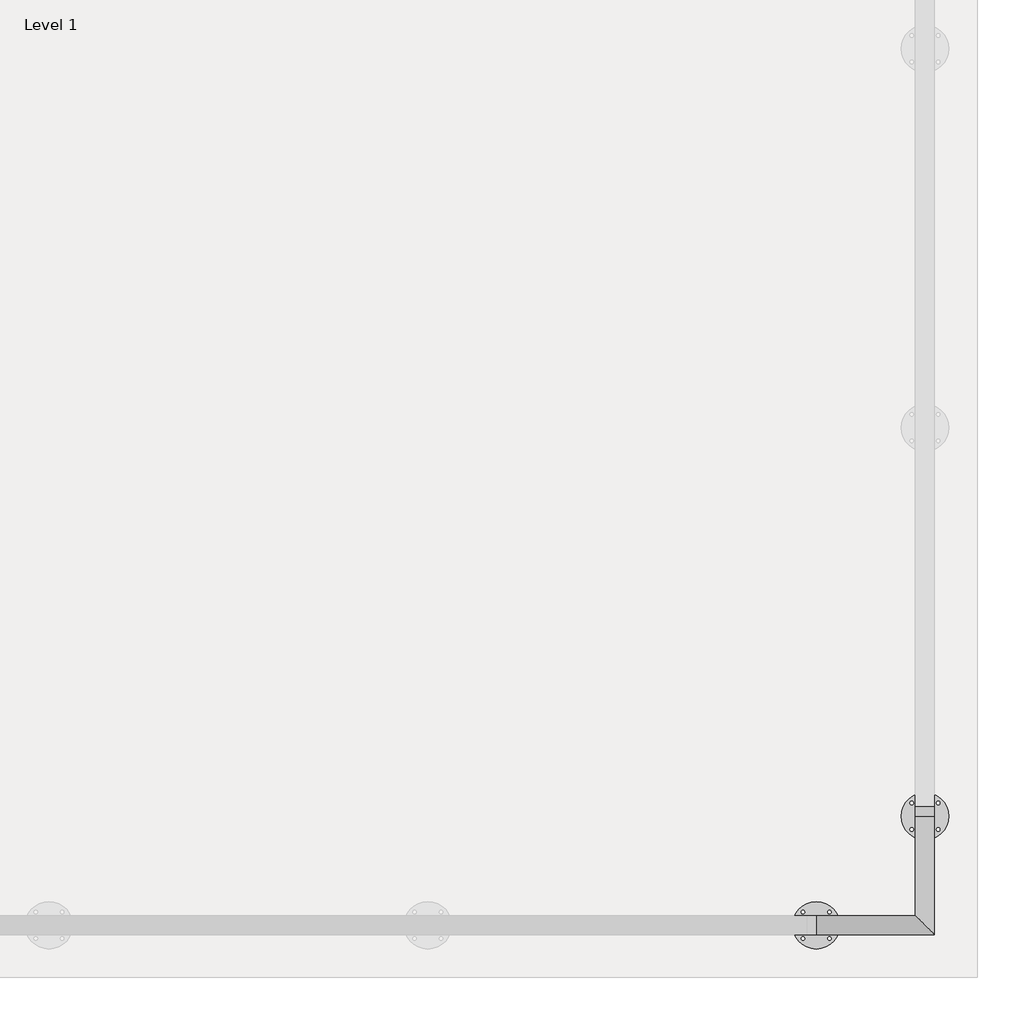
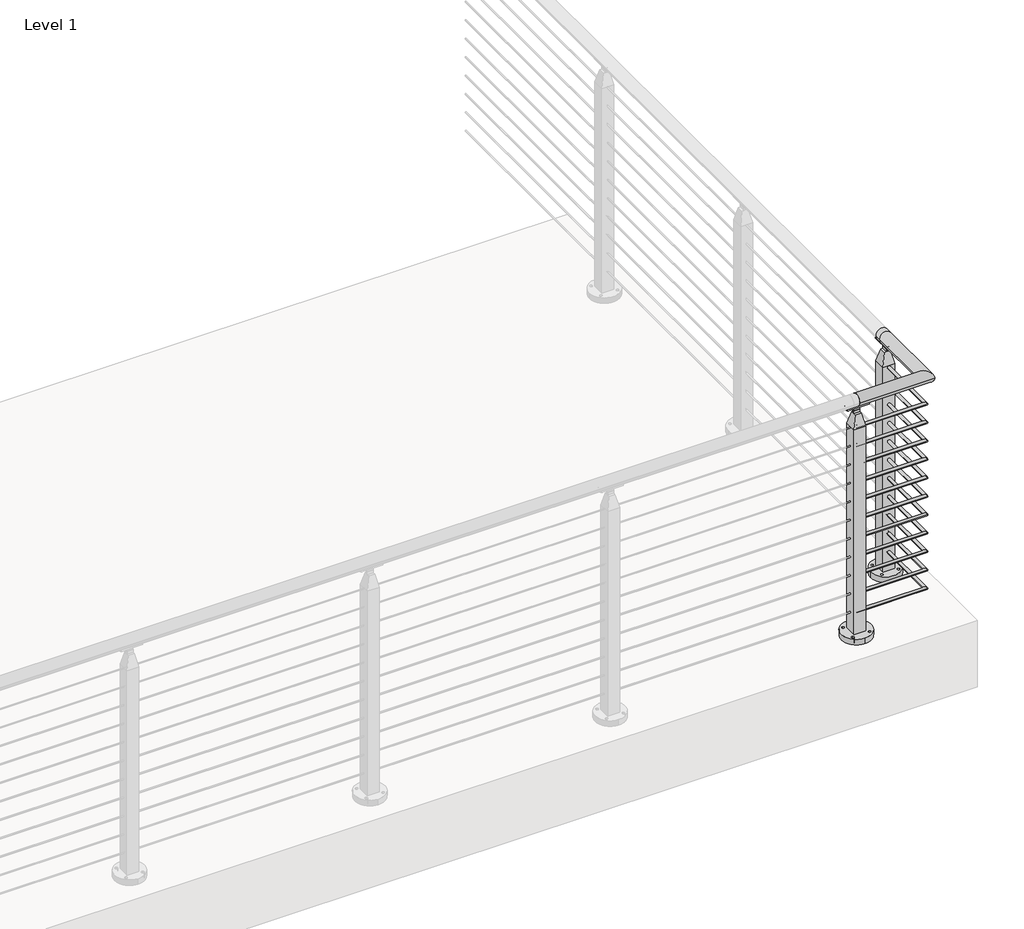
# One storey, part 14 of 26: 1 railing.
"""IFC4 building model written with IfcOpenShell, lengths in millimetres."""

from ifc_helpers import new_model, si_unit, point, frame, frame_2d, origin, origin_with_axes, place, context, project, spatial, polyline, circle_curve, ellipse_curve, trimmed, segment, composite_curve, outline, extrude, faceted_brep, element, save
from ifc_brep_helpers import plane_surface, cylinder_surface, advanced_brep

model = new_model("IFC4")

# Units and contexts
model_context = context("Model", 3, world=origin())
ifc_project = project(units=[si_unit("LENGTHUNIT", "METRE", prefix="MILLI")], contexts=[model_context])

# Site, building, storey
site = spatial("IfcSite", under=ifc_project)
building = spatial("IfcBuilding", under=site)
storey = spatial("IfcBuildingStorey", under=building, Name="Level 1", Elevation=0.0)

# Railing
placement = place(None, origin())
element("IfcRailing", 1, ObjectType="VIVA-CUBE-Cable-Core Mount-Corner", at=placement, inside=storey, context=model_context, shape_type="SolidModel", body=[
    advanced_brep(
    [(69591.9592968, -57070.1334719, 1054.1), (69591.9592968, -57019.3334719, 1054.1), (69909.4592968, -57070.1334719, 1054.1), (69858.6592968, -57019.3334719, 1054.1), (69909.4592968, -56726.8365969, 1054.1), (69858.6592968, -56726.8365969, 1054.1), (69858.6592968, -56752.6334719, 1054.1), (69909.4592968, -56752.6334719, 1054.1)],
    [
        (0, 1, circle_curve(frame((69591.9592968, -57044.7334719, 1054.1), z_axis=(-1.0, 0.0, 0.0), x_axis=(0.0, 1.0, 0.0)), 25.4)),
        (1, 0, circle_curve(frame((69591.9592968, -57044.7334719, 1054.1), z_axis=(-1.0, 0.0, 0.0), x_axis=(0.0, 1.0, 0.0)), 25.4)),
        (0, 2),
        (2, 3, ellipse_curve(frame((69884.0592968, -57044.7334719, 1054.1), z_axis=(-0.7071067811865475, -0.7071067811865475, 0.0), x_axis=(-0.7071067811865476, 0.7071067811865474, 0.0)), 35.9210245, 25.4)),
        (3, 1),
        (3, 2, ellipse_curve(frame((69884.0592968, -57044.7334719, 1054.1), z_axis=(-0.7071067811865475, -0.7071067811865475, 0.0), x_axis=(-0.7071067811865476, 0.7071067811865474, 0.0)), 35.9210245, 25.4)),
        (4, 5, circle_curve(frame((69884.0592968, -56726.8365969, 1054.1), z_axis=(0.0, 1.0, 0.0), x_axis=(-1.0, 0.0, 0.0)), 25.4)),
        (5, 4, circle_curve(frame((69884.0592968, -56726.8365969, 1054.1), z_axis=(0.0, 1.0, 0.0), x_axis=(-1.0, 0.0, 0.0)), 25.4)),
        (6, 7, circle_curve(frame((69884.0592968, -56752.6334719, 1054.1), z_axis=(0.0, 1.0, 0.0), x_axis=(-1.0, 0.0, 0.0)), 25.4)),
        (7, 4),
        (5, 6),
        (7, 6, circle_curve(frame((69884.0592968, -56752.6334719, 1054.1), z_axis=(0.0, 1.0, 0.0), x_axis=(-1.0, 0.0, 0.0)), 25.4)),
        (2, 7),
        (6, 3),
    ],
    [
        plane_surface(frame((69591.9592968, -57044.7334719, 1079.5), z_axis=(-1.0, 0.0, 0.0), x_axis=(0.0, 1.0, 0.0))),
        cylinder_surface(frame((69591.9592968, -57044.7334719, 1054.1), z_axis=(-1.0, 0.0, 0.0), x_axis=(0.0, 1.0, 0.0)), 25.4),
        plane_surface(frame((69884.0592968, -56726.8365969, 1079.5), z_axis=(0.0, 1.0, 0.0), x_axis=(0.0, 0.0, 1.0))),
        cylinder_surface(frame((69884.0592968, -56752.6334719, 1054.1), z_axis=(0.0, -1.0, 0.0), x_axis=(-1.0, 0.0, 0.0)), 25.4),
        cylinder_surface(frame((69884.0592968, -57044.7334719, 1054.1), z_axis=(0.0, -1.0, 0.0), x_axis=(-1.0, 0.0, 0.0)), 25.4),
    ],
    [
        (0, [[1, 2]]),
        (1, [[-1, 3, 4, 5]]),
        (1, [[-2, -5, 6, -3]]),
        (2, [[7, 8]]),
        (3, [[9, 10, -8, 11]]),
        (3, [[12, -11, -7, -10]]),
        (4, [[-4, 13, -9, 14]]),
        (4, [[-6, -14, -12, -13]]),
    ],
),
    advanced_brep(
    [(69591.9592968, -57038.3834719, 933.45), (69591.9592968, -57051.0834719, 933.45), (69877.7092968, -57038.3834719, 933.45), (69890.4092968, -57051.0834719, 933.45), (69877.7092968, -56752.6334719, 933.45), (69890.4092968, -56752.6334719, 933.45)],
    [
        (0, 1, circle_curve(frame((69591.9592968, -57044.7334719, 933.45), z_axis=(-1.0, 0.0, 0.0), x_axis=(0.0, -1.0, 0.0)), 6.35)),
        (1, 0, circle_curve(frame((69591.9592968, -57044.7334719, 933.45), z_axis=(-1.0, 0.0, 0.0), x_axis=(0.0, -1.0, 0.0)), 6.35)),
        (0, 2),
        (2, 3, ellipse_curve(frame((69884.0592968, -57044.7334719, 933.45), z_axis=(-0.7071067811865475, -0.7071067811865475, 0.0), x_axis=(-0.7071067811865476, 0.7071067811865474, 0.0)), 8.9802561, 6.35)),
        (3, 1),
        (3, 2, ellipse_curve(frame((69884.0592968, -57044.7334719, 933.45), z_axis=(-0.7071067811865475, -0.7071067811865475, 0.0), x_axis=(-0.7071067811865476, 0.7071067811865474, 0.0)), 8.9802561, 6.35)),
        (4, 5, circle_curve(frame((69884.0592968, -56752.6334719, 933.45), z_axis=(0.0, 1.0, 0.0), x_axis=(1.0, 0.0, 0.0)), 6.35)),
        (5, 4, circle_curve(frame((69884.0592968, -56752.6334719, 933.45), z_axis=(0.0, 1.0, 0.0), x_axis=(1.0, 0.0, 0.0)), 6.35)),
        (2, 4),
        (5, 3),
    ],
    [
        plane_surface(frame((69591.9592968, -57044.7334719, 939.8), z_axis=(-1.0, 0.0, 0.0), x_axis=(0.0, 1.0, 0.0))),
        cylinder_surface(frame((69591.9592968, -57044.7334719, 933.45), z_axis=(-1.0, 0.0, 0.0), x_axis=(0.0, -1.0, 0.0)), 6.35),
        plane_surface(frame((69884.0592968, -56752.6334719, 939.8), z_axis=(0.0, 1.0, 0.0), x_axis=(0.0, 0.0, 1.0))),
        cylinder_surface(frame((69884.0592968, -57044.7334719, 933.45), z_axis=(0.0, -1.0, 0.0), x_axis=(1.0, 0.0, 0.0)), 6.35),
    ],
    [
        (0, [[1, 2]]),
        (1, [[-1, 3, 4, 5]]),
        (1, [[-2, -5, 6, -3]]),
        (2, [[7, 8]]),
        (3, [[-4, 9, -8, 10]]),
        (3, [[-6, -10, -7, -9]]),
    ],
),
    advanced_brep(
    [(69591.9592968, -57038.3834719, 850.9), (69591.9592968, -57051.0834719, 850.9), (69877.7092968, -57038.3834719, 850.9), (69890.4092968, -57051.0834719, 850.9), (69877.7092968, -56752.6334719, 850.9), (69890.4092968, -56752.6334719, 850.9)],
    [
        (0, 1, circle_curve(frame((69591.9592968, -57044.7334719, 850.9), z_axis=(-1.0, 0.0, 0.0), x_axis=(0.0, -1.0, 0.0)), 6.35)),
        (1, 0, circle_curve(frame((69591.9592968, -57044.7334719, 850.9), z_axis=(-1.0, 0.0, 0.0), x_axis=(0.0, -1.0, 0.0)), 6.35)),
        (0, 2),
        (2, 3, ellipse_curve(frame((69884.0592968, -57044.7334719, 850.9), z_axis=(-0.7071067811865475, -0.7071067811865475, 0.0), x_axis=(-0.7071067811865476, 0.7071067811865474, 0.0)), 8.9802561, 6.35)),
        (3, 1),
        (3, 2, ellipse_curve(frame((69884.0592968, -57044.7334719, 850.9), z_axis=(-0.7071067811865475, -0.7071067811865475, 0.0), x_axis=(-0.7071067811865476, 0.7071067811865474, 0.0)), 8.9802561, 6.35)),
        (4, 5, circle_curve(frame((69884.0592968, -56752.6334719, 850.9), z_axis=(0.0, 1.0, 0.0), x_axis=(1.0, 0.0, 0.0)), 6.35)),
        (5, 4, circle_curve(frame((69884.0592968, -56752.6334719, 850.9), z_axis=(0.0, 1.0, 0.0), x_axis=(1.0, 0.0, 0.0)), 6.35)),
        (2, 4),
        (5, 3),
    ],
    [
        plane_surface(frame((69591.9592968, -57044.7334719, 857.25), z_axis=(-1.0, 0.0, 0.0), x_axis=(0.0, 1.0, 0.0))),
        cylinder_surface(frame((69591.9592968, -57044.7334719, 850.9), z_axis=(-1.0, 0.0, 0.0), x_axis=(0.0, -1.0, 0.0)), 6.35),
        plane_surface(frame((69884.0592968, -56752.6334719, 857.25), z_axis=(0.0, 1.0, 0.0), x_axis=(0.0, 0.0, 1.0))),
        cylinder_surface(frame((69884.0592968, -57044.7334719, 850.9), z_axis=(0.0, -1.0, 0.0), x_axis=(1.0, 0.0, 0.0)), 6.35),
    ],
    [
        (0, [[1, 2]]),
        (1, [[-1, 3, 4, 5]]),
        (1, [[-2, -5, 6, -3]]),
        (2, [[7, 8]]),
        (3, [[-4, 9, -8, 10]]),
        (3, [[-6, -10, -7, -9]]),
    ],
),
    advanced_brep(
    [(69591.9592968, -57038.3834719, 768.35), (69591.9592968, -57051.0834719, 768.35), (69877.7092968, -57038.3834719, 768.35), (69890.4092968, -57051.0834719, 768.35), (69877.7092968, -56752.6334719, 768.35), (69890.4092968, -56752.6334719, 768.35)],
    [
        (0, 1, circle_curve(frame((69591.9592968, -57044.7334719, 768.35), z_axis=(-1.0, 0.0, 0.0), x_axis=(0.0, -1.0, 0.0)), 6.35)),
        (1, 0, circle_curve(frame((69591.9592968, -57044.7334719, 768.35), z_axis=(-1.0, 0.0, 0.0), x_axis=(0.0, -1.0, 0.0)), 6.35)),
        (0, 2),
        (2, 3, ellipse_curve(frame((69884.0592968, -57044.7334719, 768.35), z_axis=(-0.7071067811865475, -0.7071067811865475, 0.0), x_axis=(-0.7071067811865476, 0.7071067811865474, 0.0)), 8.9802561, 6.35)),
        (3, 1),
        (3, 2, ellipse_curve(frame((69884.0592968, -57044.7334719, 768.35), z_axis=(-0.7071067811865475, -0.7071067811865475, 0.0), x_axis=(-0.7071067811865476, 0.7071067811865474, 0.0)), 8.9802561, 6.35)),
        (4, 5, circle_curve(frame((69884.0592968, -56752.6334719, 768.35), z_axis=(0.0, 1.0, 0.0), x_axis=(1.0, 0.0, 0.0)), 6.35)),
        (5, 4, circle_curve(frame((69884.0592968, -56752.6334719, 768.35), z_axis=(0.0, 1.0, 0.0), x_axis=(1.0, 0.0, 0.0)), 6.35)),
        (2, 4),
        (5, 3),
    ],
    [
        plane_surface(frame((69591.9592968, -57044.7334719, 774.7), z_axis=(-1.0, 0.0, 0.0), x_axis=(0.0, 1.0, 0.0))),
        cylinder_surface(frame((69591.9592968, -57044.7334719, 768.35), z_axis=(-1.0, 0.0, 0.0), x_axis=(0.0, -1.0, 0.0)), 6.35),
        plane_surface(frame((69884.0592968, -56752.6334719, 774.7), z_axis=(0.0, 1.0, 0.0), x_axis=(0.0, 0.0, 1.0))),
        cylinder_surface(frame((69884.0592968, -57044.7334719, 768.35), z_axis=(0.0, -1.0, 0.0), x_axis=(1.0, 0.0, 0.0)), 6.35),
    ],
    [
        (0, [[1, 2]]),
        (1, [[-1, 3, 4, 5]]),
        (1, [[-2, -5, 6, -3]]),
        (2, [[7, 8]]),
        (3, [[-4, 9, -8, 10]]),
        (3, [[-6, -10, -7, -9]]),
    ],
),
    advanced_brep(
    [(69591.9592968, -57038.3834719, 685.8), (69591.9592968, -57051.0834719, 685.8), (69877.7092968, -57038.3834719, 685.8), (69890.4092968, -57051.0834719, 685.8), (69877.7092968, -56752.6334719, 685.8), (69890.4092968, -56752.6334719, 685.8)],
    [
        (0, 1, circle_curve(frame((69591.9592968, -57044.7334719, 685.8), z_axis=(-1.0, 0.0, 0.0), x_axis=(0.0, -1.0, 0.0)), 6.35)),
        (1, 0, circle_curve(frame((69591.9592968, -57044.7334719, 685.8), z_axis=(-1.0, 0.0, 0.0), x_axis=(0.0, -1.0, 0.0)), 6.35)),
        (0, 2),
        (2, 3, ellipse_curve(frame((69884.0592968, -57044.7334719, 685.8), z_axis=(-0.7071067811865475, -0.7071067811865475, 0.0), x_axis=(-0.7071067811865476, 0.7071067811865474, 0.0)), 8.9802561, 6.35)),
        (3, 1),
        (3, 2, ellipse_curve(frame((69884.0592968, -57044.7334719, 685.8), z_axis=(-0.7071067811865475, -0.7071067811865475, 0.0), x_axis=(-0.7071067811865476, 0.7071067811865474, 0.0)), 8.9802561, 6.35)),
        (4, 5, circle_curve(frame((69884.0592968, -56752.6334719, 685.8), z_axis=(0.0, 1.0, 0.0), x_axis=(1.0, 0.0, 0.0)), 6.35)),
        (5, 4, circle_curve(frame((69884.0592968, -56752.6334719, 685.8), z_axis=(0.0, 1.0, 0.0), x_axis=(1.0, 0.0, 0.0)), 6.35)),
        (2, 4),
        (5, 3),
    ],
    [
        plane_surface(frame((69591.9592968, -57044.7334719, 692.15), z_axis=(-1.0, 0.0, 0.0), x_axis=(0.0, 1.0, 0.0))),
        cylinder_surface(frame((69591.9592968, -57044.7334719, 685.8), z_axis=(-1.0, 0.0, 0.0), x_axis=(0.0, -1.0, 0.0)), 6.35),
        plane_surface(frame((69884.0592968, -56752.6334719, 692.15), z_axis=(0.0, 1.0, 0.0), x_axis=(0.0, 0.0, 1.0))),
        cylinder_surface(frame((69884.0592968, -57044.7334719, 685.8), z_axis=(0.0, -1.0, 0.0), x_axis=(1.0, 0.0, 0.0)), 6.35),
    ],
    [
        (0, [[1, 2]]),
        (1, [[-1, 3, 4, 5]]),
        (1, [[-2, -5, 6, -3]]),
        (2, [[7, 8]]),
        (3, [[-4, 9, -8, 10]]),
        (3, [[-6, -10, -7, -9]]),
    ],
),
    advanced_brep(
    [(69591.9592968, -57038.3834719, 603.25), (69591.9592968, -57051.0834719, 603.25), (69877.7092968, -57038.3834719, 603.25), (69890.4092968, -57051.0834719, 603.25), (69877.7092968, -56752.6334719, 603.25), (69890.4092968, -56752.6334719, 603.25)],
    [
        (0, 1, circle_curve(frame((69591.9592968, -57044.7334719, 603.25), z_axis=(-1.0, 0.0, 0.0), x_axis=(0.0, -1.0, 0.0)), 6.35)),
        (1, 0, circle_curve(frame((69591.9592968, -57044.7334719, 603.25), z_axis=(-1.0, 0.0, 0.0), x_axis=(0.0, -1.0, 0.0)), 6.35)),
        (0, 2),
        (2, 3, ellipse_curve(frame((69884.0592968, -57044.7334719, 603.25), z_axis=(-0.7071067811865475, -0.7071067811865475, 0.0), x_axis=(-0.7071067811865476, 0.7071067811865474, 0.0)), 8.9802561, 6.35)),
        (3, 1),
        (3, 2, ellipse_curve(frame((69884.0592968, -57044.7334719, 603.25), z_axis=(-0.7071067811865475, -0.7071067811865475, 0.0), x_axis=(-0.7071067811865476, 0.7071067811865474, 0.0)), 8.9802561, 6.35)),
        (4, 5, circle_curve(frame((69884.0592968, -56752.6334719, 603.25), z_axis=(0.0, 1.0, 0.0), x_axis=(1.0, 0.0, 0.0)), 6.35)),
        (5, 4, circle_curve(frame((69884.0592968, -56752.6334719, 603.25), z_axis=(0.0, 1.0, 0.0), x_axis=(1.0, 0.0, 0.0)), 6.35)),
        (2, 4),
        (5, 3),
    ],
    [
        plane_surface(frame((69591.9592968, -57044.7334719, 609.6), z_axis=(-1.0, 0.0, 0.0), x_axis=(0.0, 1.0, 0.0))),
        cylinder_surface(frame((69591.9592968, -57044.7334719, 603.25), z_axis=(-1.0, 0.0, 0.0), x_axis=(0.0, -1.0, 0.0)), 6.35),
        plane_surface(frame((69884.0592968, -56752.6334719, 609.6), z_axis=(0.0, 1.0, 0.0), x_axis=(0.0, 0.0, 1.0))),
        cylinder_surface(frame((69884.0592968, -57044.7334719, 603.25), z_axis=(0.0, -1.0, 0.0), x_axis=(1.0, 0.0, 0.0)), 6.35),
    ],
    [
        (0, [[1, 2]]),
        (1, [[-1, 3, 4, 5]]),
        (1, [[-2, -5, 6, -3]]),
        (2, [[7, 8]]),
        (3, [[-4, 9, -8, 10]]),
        (3, [[-6, -10, -7, -9]]),
    ],
),
    advanced_brep(
    [(69591.9592968, -57038.3834719, 520.7), (69591.9592968, -57051.0834719, 520.7), (69877.7092968, -57038.3834719, 520.7), (69890.4092968, -57051.0834719, 520.7), (69877.7092968, -56752.6334719, 520.7), (69890.4092968, -56752.6334719, 520.7)],
    [
        (0, 1, circle_curve(frame((69591.9592968, -57044.7334719, 520.7), z_axis=(-1.0, 0.0, 0.0), x_axis=(0.0, -1.0, 0.0)), 6.35)),
        (1, 0, circle_curve(frame((69591.9592968, -57044.7334719, 520.7), z_axis=(-1.0, 0.0, 0.0), x_axis=(0.0, -1.0, 0.0)), 6.35)),
        (0, 2),
        (2, 3, ellipse_curve(frame((69884.0592968, -57044.7334719, 520.7), z_axis=(-0.7071067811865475, -0.7071067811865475, 0.0), x_axis=(-0.7071067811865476, 0.7071067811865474, 0.0)), 8.9802561, 6.35)),
        (3, 1),
        (3, 2, ellipse_curve(frame((69884.0592968, -57044.7334719, 520.7), z_axis=(-0.7071067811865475, -0.7071067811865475, 0.0), x_axis=(-0.7071067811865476, 0.7071067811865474, 0.0)), 8.9802561, 6.35)),
        (4, 5, circle_curve(frame((69884.0592968, -56752.6334719, 520.7), z_axis=(0.0, 1.0, 0.0), x_axis=(1.0, 0.0, 0.0)), 6.35)),
        (5, 4, circle_curve(frame((69884.0592968, -56752.6334719, 520.7), z_axis=(0.0, 1.0, 0.0), x_axis=(1.0, 0.0, 0.0)), 6.35)),
        (2, 4),
        (5, 3),
    ],
    [
        plane_surface(frame((69591.9592968, -57044.7334719, 527.05), z_axis=(-1.0, 0.0, 0.0), x_axis=(0.0, 1.0, 0.0))),
        cylinder_surface(frame((69591.9592968, -57044.7334719, 520.7), z_axis=(-1.0, 0.0, 0.0), x_axis=(0.0, -1.0, 0.0)), 6.35),
        plane_surface(frame((69884.0592968, -56752.6334719, 527.05), z_axis=(0.0, 1.0, 0.0), x_axis=(0.0, 0.0, 1.0))),
        cylinder_surface(frame((69884.0592968, -57044.7334719, 520.7), z_axis=(0.0, -1.0, 0.0), x_axis=(1.0, 0.0, 0.0)), 6.35),
    ],
    [
        (0, [[1, 2]]),
        (1, [[-1, 3, 4, 5]]),
        (1, [[-2, -5, 6, -3]]),
        (2, [[7, 8]]),
        (3, [[-4, 9, -8, 10]]),
        (3, [[-6, -10, -7, -9]]),
    ],
),
    advanced_brep(
    [(69591.9592968, -57038.3834719, 438.15), (69591.9592968, -57051.0834719, 438.15), (69877.7092968, -57038.3834719, 438.15), (69890.4092968, -57051.0834719, 438.15), (69877.7092968, -56752.6334719, 438.15), (69890.4092968, -56752.6334719, 438.15)],
    [
        (0, 1, circle_curve(frame((69591.9592968, -57044.7334719, 438.15), z_axis=(-1.0, 0.0, 0.0), x_axis=(0.0, -1.0, 0.0)), 6.35)),
        (1, 0, circle_curve(frame((69591.9592968, -57044.7334719, 438.15), z_axis=(-1.0, 0.0, 0.0), x_axis=(0.0, -1.0, 0.0)), 6.35)),
        (0, 2),
        (2, 3, ellipse_curve(frame((69884.0592968, -57044.7334719, 438.15), z_axis=(-0.7071067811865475, -0.7071067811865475, 0.0), x_axis=(-0.7071067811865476, 0.7071067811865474, 0.0)), 8.9802561, 6.35)),
        (3, 1),
        (3, 2, ellipse_curve(frame((69884.0592968, -57044.7334719, 438.15), z_axis=(-0.7071067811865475, -0.7071067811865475, 0.0), x_axis=(-0.7071067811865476, 0.7071067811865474, 0.0)), 8.9802561, 6.35)),
        (4, 5, circle_curve(frame((69884.0592968, -56752.6334719, 438.15), z_axis=(0.0, 1.0, 0.0), x_axis=(1.0, 0.0, 0.0)), 6.35)),
        (5, 4, circle_curve(frame((69884.0592968, -56752.6334719, 438.15), z_axis=(0.0, 1.0, 0.0), x_axis=(1.0, 0.0, 0.0)), 6.35)),
        (2, 4),
        (5, 3),
    ],
    [
        plane_surface(frame((69591.9592968, -57044.7334719, 444.5), z_axis=(-1.0, 0.0, 0.0), x_axis=(0.0, 1.0, 0.0))),
        cylinder_surface(frame((69591.9592968, -57044.7334719, 438.15), z_axis=(-1.0, 0.0, 0.0), x_axis=(0.0, -1.0, 0.0)), 6.35),
        plane_surface(frame((69884.0592968, -56752.6334719, 444.5), z_axis=(0.0, 1.0, 0.0), x_axis=(0.0, 0.0, 1.0))),
        cylinder_surface(frame((69884.0592968, -57044.7334719, 438.15), z_axis=(0.0, -1.0, 0.0), x_axis=(1.0, 0.0, 0.0)), 6.35),
    ],
    [
        (0, [[1, 2]]),
        (1, [[-1, 3, 4, 5]]),
        (1, [[-2, -5, 6, -3]]),
        (2, [[7, 8]]),
        (3, [[-4, 9, -8, 10]]),
        (3, [[-6, -10, -7, -9]]),
    ],
),
    advanced_brep(
    [(69591.9592968, -57038.3834719, 355.6), (69591.9592968, -57051.0834719, 355.6), (69877.7092968, -57038.3834719, 355.6), (69890.4092968, -57051.0834719, 355.6), (69877.7092968, -56752.6334719, 355.6), (69890.4092968, -56752.6334719, 355.6)],
    [
        (0, 1, circle_curve(frame((69591.9592968, -57044.7334719, 355.6), z_axis=(-1.0, 0.0, 0.0), x_axis=(0.0, -1.0, 0.0)), 6.35)),
        (1, 0, circle_curve(frame((69591.9592968, -57044.7334719, 355.6), z_axis=(-1.0, 0.0, 0.0), x_axis=(0.0, -1.0, 0.0)), 6.35)),
        (0, 2),
        (2, 3, ellipse_curve(frame((69884.0592968, -57044.7334719, 355.6), z_axis=(-0.7071067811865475, -0.7071067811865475, 0.0), x_axis=(-0.7071067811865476, 0.7071067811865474, 0.0)), 8.9802561, 6.35)),
        (3, 1),
        (3, 2, ellipse_curve(frame((69884.0592968, -57044.7334719, 355.6), z_axis=(-0.7071067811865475, -0.7071067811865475, 0.0), x_axis=(-0.7071067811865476, 0.7071067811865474, 0.0)), 8.9802561, 6.35)),
        (4, 5, circle_curve(frame((69884.0592968, -56752.6334719, 355.6), z_axis=(0.0, 1.0, 0.0), x_axis=(1.0, 0.0, 0.0)), 6.35)),
        (5, 4, circle_curve(frame((69884.0592968, -56752.6334719, 355.6), z_axis=(0.0, 1.0, 0.0), x_axis=(1.0, 0.0, 0.0)), 6.35)),
        (2, 4),
        (5, 3),
    ],
    [
        plane_surface(frame((69591.9592968, -57044.7334719, 361.95), z_axis=(-1.0, 0.0, 0.0), x_axis=(0.0, 1.0, 0.0))),
        cylinder_surface(frame((69591.9592968, -57044.7334719, 355.6), z_axis=(-1.0, 0.0, 0.0), x_axis=(0.0, -1.0, 0.0)), 6.35),
        plane_surface(frame((69884.0592968, -56752.6334719, 361.95), z_axis=(0.0, 1.0, 0.0), x_axis=(0.0, 0.0, 1.0))),
        cylinder_surface(frame((69884.0592968, -57044.7334719, 355.6), z_axis=(0.0, -1.0, 0.0), x_axis=(1.0, 0.0, 0.0)), 6.35),
    ],
    [
        (0, [[1, 2]]),
        (1, [[-1, 3, 4, 5]]),
        (1, [[-2, -5, 6, -3]]),
        (2, [[7, 8]]),
        (3, [[-4, 9, -8, 10]]),
        (3, [[-6, -10, -7, -9]]),
    ],
),
    advanced_brep(
    [(69591.9592968, -57038.3834719, 273.05), (69591.9592968, -57051.0834719, 273.05), (69877.7092968, -57038.3834719, 273.05), (69890.4092968, -57051.0834719, 273.05), (69877.7092968, -56752.6334719, 273.05), (69890.4092968, -56752.6334719, 273.05)],
    [
        (0, 1, circle_curve(frame((69591.9592968, -57044.7334719, 273.05), z_axis=(-1.0, 0.0, 0.0), x_axis=(0.0, -1.0, 0.0)), 6.35)),
        (1, 0, circle_curve(frame((69591.9592968, -57044.7334719, 273.05), z_axis=(-1.0, 0.0, 0.0), x_axis=(0.0, -1.0, 0.0)), 6.35)),
        (0, 2),
        (2, 3, ellipse_curve(frame((69884.0592968, -57044.7334719, 273.05), z_axis=(-0.7071067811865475, -0.7071067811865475, 0.0), x_axis=(-0.7071067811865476, 0.7071067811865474, 0.0)), 8.9802561, 6.35)),
        (3, 1),
        (3, 2, ellipse_curve(frame((69884.0592968, -57044.7334719, 273.05), z_axis=(-0.7071067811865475, -0.7071067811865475, 0.0), x_axis=(-0.7071067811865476, 0.7071067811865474, 0.0)), 8.9802561, 6.35)),
        (4, 5, circle_curve(frame((69884.0592968, -56752.6334719, 273.05), z_axis=(0.0, 1.0, 0.0), x_axis=(1.0, 0.0, 0.0)), 6.35)),
        (5, 4, circle_curve(frame((69884.0592968, -56752.6334719, 273.05), z_axis=(0.0, 1.0, 0.0), x_axis=(1.0, 0.0, 0.0)), 6.35)),
        (2, 4),
        (5, 3),
    ],
    [
        plane_surface(frame((69591.9592968, -57044.7334719, 279.4), z_axis=(-1.0, 0.0, 0.0), x_axis=(0.0, 1.0, 0.0))),
        cylinder_surface(frame((69591.9592968, -57044.7334719, 273.05), z_axis=(-1.0, 0.0, 0.0), x_axis=(0.0, -1.0, 0.0)), 6.35),
        plane_surface(frame((69884.0592968, -56752.6334719, 279.4), z_axis=(0.0, 1.0, 0.0), x_axis=(0.0, 0.0, 1.0))),
        cylinder_surface(frame((69884.0592968, -57044.7334719, 273.05), z_axis=(0.0, -1.0, 0.0), x_axis=(1.0, 0.0, 0.0)), 6.35),
    ],
    [
        (0, [[1, 2]]),
        (1, [[-1, 3, 4, 5]]),
        (1, [[-2, -5, 6, -3]]),
        (2, [[7, 8]]),
        (3, [[-4, 9, -8, 10]]),
        (3, [[-6, -10, -7, -9]]),
    ],
),
    advanced_brep(
    [(69591.9592968, -57038.3834719, 190.5), (69591.9592968, -57051.0834719, 190.5), (69877.7092968, -57038.3834719, 190.5), (69890.4092968, -57051.0834719, 190.5), (69877.7092968, -56752.6334719, 190.5), (69890.4092968, -56752.6334719, 190.5)],
    [
        (0, 1, circle_curve(frame((69591.9592968, -57044.7334719, 190.5), z_axis=(-1.0, 0.0, 0.0), x_axis=(0.0, -1.0, 0.0)), 6.35)),
        (1, 0, circle_curve(frame((69591.9592968, -57044.7334719, 190.5), z_axis=(-1.0, 0.0, 0.0), x_axis=(0.0, -1.0, 0.0)), 6.35)),
        (0, 2),
        (2, 3, ellipse_curve(frame((69884.0592968, -57044.7334719, 190.5), z_axis=(-0.7071067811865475, -0.7071067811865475, 0.0), x_axis=(-0.7071067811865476, 0.7071067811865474, 0.0)), 8.9802561, 6.35)),
        (3, 1),
        (3, 2, ellipse_curve(frame((69884.0592968, -57044.7334719, 190.5), z_axis=(-0.7071067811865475, -0.7071067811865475, 0.0), x_axis=(-0.7071067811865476, 0.7071067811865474, 0.0)), 8.9802561, 6.35)),
        (4, 5, circle_curve(frame((69884.0592968, -56752.6334719, 190.5), z_axis=(0.0, 1.0, 0.0), x_axis=(1.0, 0.0, 0.0)), 6.35)),
        (5, 4, circle_curve(frame((69884.0592968, -56752.6334719, 190.5), z_axis=(0.0, 1.0, 0.0), x_axis=(1.0, 0.0, 0.0)), 6.35)),
        (2, 4),
        (5, 3),
    ],
    [
        plane_surface(frame((69591.9592968, -57044.7334719, 196.85), z_axis=(-1.0, 0.0, 0.0), x_axis=(0.0, 1.0, 0.0))),
        cylinder_surface(frame((69591.9592968, -57044.7334719, 190.5), z_axis=(-1.0, 0.0, 0.0), x_axis=(0.0, -1.0, 0.0)), 6.35),
        plane_surface(frame((69884.0592968, -56752.6334719, 196.85), z_axis=(0.0, 1.0, 0.0), x_axis=(0.0, 0.0, 1.0))),
        cylinder_surface(frame((69884.0592968, -57044.7334719, 190.5), z_axis=(0.0, -1.0, 0.0), x_axis=(1.0, 0.0, 0.0)), 6.35),
    ],
    [
        (0, [[1, 2]]),
        (1, [[-1, 3, 4, 5]]),
        (1, [[-2, -5, 6, -3]]),
        (2, [[7, 8]]),
        (3, [[-4, 9, -8, 10]]),
        (3, [[-6, -10, -7, -9]]),
    ],
),
    advanced_brep(
    [(69591.9592968, -57038.3834719, 107.95), (69591.9592968, -57051.0834719, 107.95), (69877.7092968, -57038.3834719, 107.95), (69890.4092968, -57051.0834719, 107.95), (69877.7092968, -56752.6334719, 107.95), (69890.4092968, -56752.6334719, 107.95)],
    [
        (0, 1, circle_curve(frame((69591.9592968, -57044.7334719, 107.95), z_axis=(-1.0, 0.0, 0.0), x_axis=(0.0, -1.0, 0.0)), 6.35)),
        (1, 0, circle_curve(frame((69591.9592968, -57044.7334719, 107.95), z_axis=(-1.0, 0.0, 0.0), x_axis=(0.0, -1.0, 0.0)), 6.35)),
        (0, 2),
        (2, 3, ellipse_curve(frame((69884.0592968, -57044.7334719, 107.95), z_axis=(-0.7071067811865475, -0.7071067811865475, 0.0), x_axis=(-0.7071067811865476, 0.7071067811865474, 0.0)), 8.9802561, 6.35)),
        (3, 1),
        (3, 2, ellipse_curve(frame((69884.0592968, -57044.7334719, 107.95), z_axis=(-0.7071067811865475, -0.7071067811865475, 0.0), x_axis=(-0.7071067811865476, 0.7071067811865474, 0.0)), 8.9802561, 6.35)),
        (4, 5, circle_curve(frame((69884.0592968, -56752.6334719, 107.95), z_axis=(0.0, 1.0, 0.0), x_axis=(1.0, 0.0, 0.0)), 6.35)),
        (5, 4, circle_curve(frame((69884.0592968, -56752.6334719, 107.95), z_axis=(0.0, 1.0, 0.0), x_axis=(1.0, 0.0, 0.0)), 6.35)),
        (2, 4),
        (5, 3),
    ],
    [
        plane_surface(frame((69591.9592968, -57044.7334719, 114.3), z_axis=(-1.0, 0.0, 0.0), x_axis=(0.0, 1.0, 0.0))),
        cylinder_surface(frame((69591.9592968, -57044.7334719, 107.95), z_axis=(-1.0, 0.0, 0.0), x_axis=(0.0, -1.0, 0.0)), 6.35),
        plane_surface(frame((69884.0592968, -56752.6334719, 114.3), z_axis=(0.0, 1.0, 0.0), x_axis=(0.0, 0.0, 1.0))),
        cylinder_surface(frame((69884.0592968, -57044.7334719, 107.95), z_axis=(0.0, -1.0, 0.0), x_axis=(1.0, 0.0, 0.0)), 6.35),
    ],
    [
        (0, [[1, 2]]),
        (1, [[-1, 3, 4, 5]]),
        (1, [[-2, -5, 6, -3]]),
        (2, [[7, 8]]),
        (3, [[-4, 9, -8, 10]]),
        (3, [[-6, -10, -7, -9]]),
    ],
),
    extrude(outline(composite_curve([segment(trimmed(circle_curve(frame_2d((69884.0592968, -56752.2365969)), 63.5), [point((69947.5592968, -56752.2365969))], [point((69820.5592968, -56752.2365969))], False, "CARTESIAN"), True, "CONTINUOUS"), segment(trimmed(circle_curve(frame_2d((69884.0592968, -56752.2365969)), 63.5), [point((69820.5592968, -56752.2365969))], [point((69947.5592968, -56752.2365969))], False, "CARTESIAN"), True, "CONTINUOUS")], self_intersect=False), holes=[composite_curve([segment(trimmed(circle_curve(frame_2d((69919.5290406, -56787.7063407)), 4.7625), [point((69924.2915406, -56787.7063407))], [point((69914.7665406, -56787.7063407))], True, "CARTESIAN"), True, "CONTINUOUS"), segment(trimmed(circle_curve(frame_2d((69919.5290406, -56787.7063407)), 4.7625), [point((69914.7665406, -56787.7063407))], [point((69924.2915406, -56787.7063407))], True, "CARTESIAN"), True, "CONTINUOUS")], self_intersect=False), composite_curve([segment(trimmed(circle_curve(frame_2d((69848.5895529, -56787.7063407)), 4.7625), [point((69853.3520529, -56787.7063407))], [point((69843.8270529, -56787.7063407))], True, "CARTESIAN"), True, "CONTINUOUS"), segment(trimmed(circle_curve(frame_2d((69848.5895529, -56787.7063407)), 4.7625), [point((69843.8270529, -56787.7063407))], [point((69853.3520529, -56787.7063407))], True, "CARTESIAN"), True, "CONTINUOUS")], self_intersect=False), composite_curve([segment(trimmed(circle_curve(frame_2d((69919.5290406, -56716.766853)), 4.7625), [point((69924.2915406, -56716.766853))], [point((69914.7665406, -56716.766853))], True, "CARTESIAN"), True, "CONTINUOUS"), segment(trimmed(circle_curve(frame_2d((69919.5290406, -56716.766853)), 4.7625), [point((69914.7665406, -56716.766853))], [point((69924.2915406, -56716.766853))], True, "CARTESIAN"), True, "CONTINUOUS")], self_intersect=False), composite_curve([segment(trimmed(circle_curve(frame_2d((69848.5895529, -56716.766853)), 4.7625), [point((69853.3520529, -56716.766853))], [point((69843.8270529, -56716.766853))], True, "CARTESIAN"), True, "CONTINUOUS"), segment(trimmed(circle_curve(frame_2d((69848.5895529, -56716.766853)), 4.7625), [point((69843.8270529, -56716.766853))], [point((69853.3520529, -56716.766853))], True, "CARTESIAN"), True, "CONTINUOUS")], self_intersect=False)]), origin_with_axes(), (0.0, 0.0, 1.0), 25.4),
    faceted_brep([(69871.3592968, -56739.5365969, 997.2902749), (69871.3592968, -56764.9365969, 997.2902749), (69880.0905468, -56764.9365969, 997.2902749), (69880.0905468, -56739.5365969, 997.2902749), (69896.7592968, -56764.9365969, 997.2902749), (69896.7592968, -56739.5365969, 997.2902749), (69888.0280468, -56739.5365969, 997.2902749), (69888.0280468, -56764.9365969, 997.2902749), (69858.6592968, -56726.8365969, 941.1347854), (69909.4592968, -56726.8365969, 941.1347854), (69858.6592968, -56777.6365969, 941.1347854), (69909.4592968, -56777.6365969, 941.1347854), (69858.6592968, -56726.8365969, -88.9), (69909.4592968, -56726.8365969, -88.9), (69909.4592968, -56777.6365969, -88.9), (69858.6592968, -56777.6365969, -88.9), (69888.0280468, -56764.9365969, 1009.3306013), (69888.0280468, -56739.5365969, 1009.3306013), (69880.0905468, -56739.5365969, 1009.3306013), (69880.0905468, -56764.9365969, 1009.3306013)], [[[0, 1, 2, 3]], [[4, 5, 6, 7]], [[8, 0, 3, 6, 5, 9]], [[1, 0, 8, 10]], [[1, 10, 11, 4, 7, 2]], [[5, 4, 11, 9]], [[12, 13, 14, 15]], [[12, 15, 10, 8]], [[15, 14, 11, 10]], [[14, 13, 9, 11]], [[13, 12, 8, 9]], [[16, 17, 18, 19]], [[17, 16, 7, 6]], [[18, 17, 6, 3]], [[19, 18, 3, 2]], [[16, 19, 2, 7]]]),
    extrude(outline(composite_curve([segment(trimmed(circle_curve(frame_2d((1054.1433184, 69883.9625684)), 25.4345159), [point((1032.0284941, 69896.5263713))], [point((1031.9335733, 69871.5673346))], True, "CARTESIAN"), True, "CONTINUOUS"), segment(trimmed(circle_curve(frame_2d((1029.4310885, 69870.3226815)), 2.7949225), [point((1031.9335733, 69871.5673346))], [point((1027.0585031, 69868.8453764))], False, "CARTESIAN"), True, "CONTINUOUS"), segment(trimmed(circle_curve(frame_2d((1054.905945, 69884.0960315)), 31.75), [point((1027.0585031, 69868.8453764))], [point((1027.6392616, 69900.3622687))], False, "CARTESIAN"), True, "CONTINUOUS"), segment(trimmed(circle_curve(frame_2d((1029.5101807, 69898.073929)), 2.9558141), [point((1027.6392616, 69900.3622687))], [point((1032.0284941, 69896.5263713))], False, "CARTESIAN"), True, "CONTINUOUS")], self_intersect=False)), frame((0.0, -56797.4739969, 0.0), z_axis=(0.0, 1.0, 0.0), x_axis=(0.0, 0.0, 1.0)), (0.0, 0.0, 1.0), 90.4748),
    extrude(outline(composite_curve([segment(trimmed(circle_curve(frame_2d((-56725.168682, 1009.0006022)), 14.3679149), [point((-56725.168682, 1023.3685171))], [point((-56739.5365969, 1009.0006022))], True, "CARTESIAN"), True, "CONTINUOUS"), segment(trimmed(circle_curve(frame_2d((-56752.2365969, 1009.0006022)), 12.7), [point((-56739.5365969, 1009.0006022))], [point((-56764.9365969, 1009.0006022))], False, "CARTESIAN"), True, "CONTINUOUS"), segment(trimmed(circle_curve(frame_2d((-56779.3045117, 1009.0006022)), 14.3679149), [point((-56764.9365969, 1009.0006022))], [point((-56779.3045117, 1023.3685171))], True, "CARTESIAN"), True, "CONTINUOUS"), segment(polyline([(-56779.3045117, 1023.3685171), (-56725.168682, 1023.3685171)]), True, "CONTINUOUS")], self_intersect=False)), frame((69881.5192968, 0.0, 0.0), z_axis=(1.0, 0.0, 0.0), x_axis=(0.0, 1.0, 0.0)), (0.0, 0.0, 1.0), 5.08),
    extrude(outline(composite_curve([segment(trimmed(circle_curve(frame_2d((69592.3561718, -57044.7334719)), 63.5), [point((69592.3561718, -57108.2334719))], [point((69592.3561718, -56981.2334719))], False, "CARTESIAN"), True, "CONTINUOUS"), segment(trimmed(circle_curve(frame_2d((69592.3561718, -57044.7334719)), 63.5), [point((69592.3561718, -56981.2334719))], [point((69592.3561718, -57108.2334719))], False, "CARTESIAN"), True, "CONTINUOUS")], self_intersect=False), holes=[composite_curve([segment(trimmed(circle_curve(frame_2d((69556.8864279, -57080.2032157)), 4.7625), [point((69556.8864279, -57084.9657157))], [point((69556.8864279, -57075.4407157))], True, "CARTESIAN"), True, "CONTINUOUS"), segment(trimmed(circle_curve(frame_2d((69556.8864279, -57080.2032157)), 4.7625), [point((69556.8864279, -57075.4407157))], [point((69556.8864279, -57084.9657157))], True, "CARTESIAN"), True, "CONTINUOUS")], self_intersect=False), composite_curve([segment(trimmed(circle_curve(frame_2d((69556.8864279, -57009.263728)), 4.7625), [point((69556.8864279, -57014.026228))], [point((69556.8864279, -57004.501228))], True, "CARTESIAN"), True, "CONTINUOUS"), segment(trimmed(circle_curve(frame_2d((69556.8864279, -57009.263728)), 4.7625), [point((69556.8864279, -57004.501228))], [point((69556.8864279, -57014.026228))], True, "CARTESIAN"), True, "CONTINUOUS")], self_intersect=False), composite_curve([segment(trimmed(circle_curve(frame_2d((69627.8259156, -57080.2032157)), 4.7625), [point((69627.8259156, -57084.9657157))], [point((69627.8259156, -57075.4407157))], True, "CARTESIAN"), True, "CONTINUOUS"), segment(trimmed(circle_curve(frame_2d((69627.8259156, -57080.2032157)), 4.7625), [point((69627.8259156, -57075.4407157))], [point((69627.8259156, -57084.9657157))], True, "CARTESIAN"), True, "CONTINUOUS")], self_intersect=False), composite_curve([segment(trimmed(circle_curve(frame_2d((69627.8259156, -57009.263728)), 4.7625), [point((69627.8259156, -57014.026228))], [point((69627.8259156, -57004.501228))], True, "CARTESIAN"), True, "CONTINUOUS"), segment(trimmed(circle_curve(frame_2d((69627.8259156, -57009.263728)), 4.7625), [point((69627.8259156, -57004.501228))], [point((69627.8259156, -57014.026228))], True, "CARTESIAN"), True, "CONTINUOUS")], self_intersect=False)]), origin_with_axes(), (0.0, 0.0, 1.0), 25.4),
    faceted_brep([(69605.0561718, -57032.0334719, 997.2902749), (69579.6561718, -57032.0334719, 997.2902749), (69579.6561718, -57040.7647219, 997.2902749), (69605.0561718, -57040.7647219, 997.2902749), (69579.6561718, -57057.4334719, 997.2902749), (69605.0561718, -57057.4334719, 997.2902749), (69605.0561718, -57048.7022219, 997.2902749), (69579.6561718, -57048.7022219, 997.2902749), (69617.7561718, -57019.3334719, 941.1347854), (69617.7561718, -57070.1334719, 941.1347854), (69566.9561718, -57019.3334719, 941.1347854), (69566.9561718, -57070.1334719, 941.1347854), (69617.7561718, -57019.3334719, -88.9), (69617.7561718, -57070.1334719, -88.9), (69566.9561718, -57070.1334719, -88.9), (69566.9561718, -57019.3334719, -88.9), (69579.6561718, -57048.7022219, 1009.3306013), (69605.0561718, -57048.7022219, 1009.3306013), (69605.0561718, -57040.7647219, 1009.3306013), (69579.6561718, -57040.7647219, 1009.3306013)], [[[0, 1, 2, 3]], [[4, 5, 6, 7]], [[8, 0, 3, 6, 5, 9]], [[1, 0, 8, 10]], [[1, 10, 11, 4, 7, 2]], [[5, 4, 11, 9]], [[12, 13, 14, 15]], [[12, 15, 10, 8]], [[15, 14, 11, 10]], [[14, 13, 9, 11]], [[13, 12, 8, 9]], [[16, 17, 18, 19]], [[17, 16, 7, 6]], [[18, 17, 6, 3]], [[19, 18, 3, 2]], [[16, 19, 2, 7]]]),
    extrude(outline(composite_curve([segment(trimmed(circle_curve(frame_2d((-57044.6367435, 1054.1433184)), 25.4345159), [point((-57057.2005464, 1032.0284941))], [point((-57032.2415097, 1031.9335733))], True, "CARTESIAN"), True, "CONTINUOUS"), segment(trimmed(circle_curve(frame_2d((-57030.9968566, 1029.4310885)), 2.7949225), [point((-57032.2415097, 1031.9335733))], [point((-57029.5195515, 1027.0585031))], False, "CARTESIAN"), True, "CONTINUOUS"), segment(trimmed(circle_curve(frame_2d((-57044.7702066, 1054.905945)), 31.75), [point((-57029.5195515, 1027.0585031))], [point((-57061.0364438, 1027.6392616))], False, "CARTESIAN"), True, "CONTINUOUS"), segment(trimmed(circle_curve(frame_2d((-57058.7481041, 1029.5101807)), 2.9558141), [point((-57061.0364438, 1027.6392616))], [point((-57057.2005464, 1032.0284941))], False, "CARTESIAN"), True, "CONTINUOUS")], self_intersect=False)), frame((69547.1187718, 0.0, 0.0), z_axis=(1.0, 0.0, 0.0), x_axis=(0.0, 1.0, 0.0)), (0.0, 0.0, 1.0), 90.4748),
    extrude(outline(composite_curve([segment(polyline([(1023.3685171, 69619.4240866), (1023.3685171, 69565.2882569)]), True, "CONTINUOUS"), segment(trimmed(circle_curve(frame_2d((1009.0006022, 69565.2882569)), 14.3679149), [point((1023.3685171, 69565.2882569))], [point((1009.0006022, 69579.6561718))], True, "CARTESIAN"), True, "CONTINUOUS"), segment(trimmed(circle_curve(frame_2d((1009.0006022, 69592.3561718)), 12.7), [point((1009.0006022, 69579.6561718))], [point((1009.0006022, 69605.0561718))], False, "CARTESIAN"), True, "CONTINUOUS"), segment(trimmed(circle_curve(frame_2d((1009.0006022, 69619.4240866)), 14.3679149), [point((1009.0006022, 69605.0561718))], [point((1023.3685171, 69619.4240866))], True, "CARTESIAN"), True, "CONTINUOUS")], self_intersect=False)), frame((0.0, -57047.2734719, 0.0), z_axis=(0.0, 1.0, 0.0), x_axis=(0.0, 0.0, 1.0)), (0.0, 0.0, 1.0), 5.08),
])

save(model, "model.ifc")
